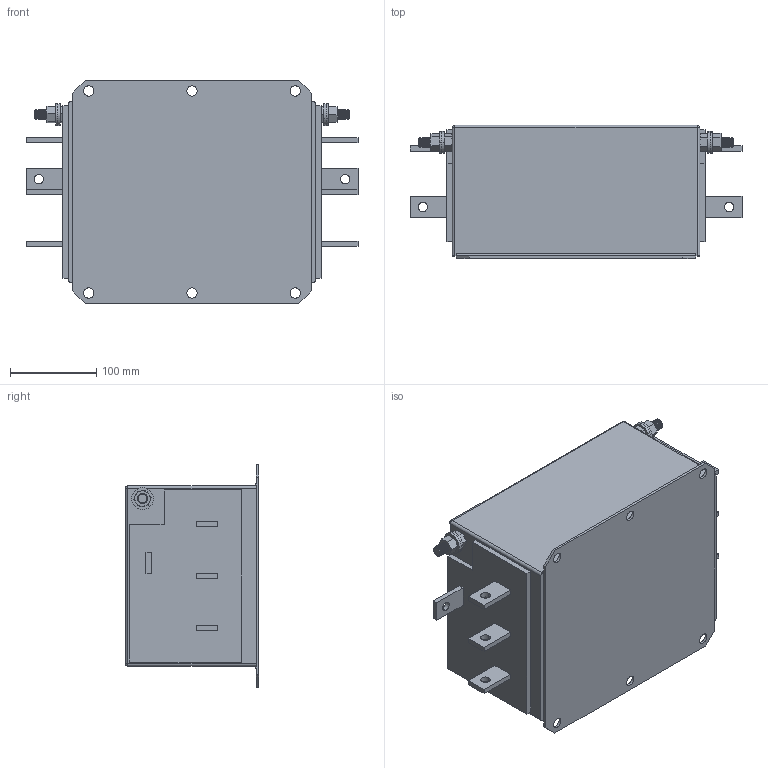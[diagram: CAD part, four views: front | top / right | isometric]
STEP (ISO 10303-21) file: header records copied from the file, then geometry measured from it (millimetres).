
FILE_DESCRIPTION (( 'STEP AP203' ), '1' );
FILE_NAME ('NF-4-400.STEP', '2022-05-17T14:55:03', ( '' ), ( '' ), 'SwSTEP 2.0', 'SolidWorks 2017', '' );
FILE_SCHEMA (( 'CONFIG_CONTROL_DESIGN' ));
Length unit declared in the file: millimetre
Products named in the file (6): flat washer narrow_am_B18.22M - Plain washer, 12 mm, narrow; NF-4-400; hex nut style 1_am_B18.2.4.1M - Hex nut, Style 1,  M12 x 1.75 --D-N; hex screw_am_B18.6.7M - M12 x 1.75 x 30 Indented HHMS --30S; M12x30 Earth post
Assembly tree (7 placements, depth 3):
  NF-4-400
    NF-4-400
    M12x30 Earth post  x2
      flat washer narrow_am_B18.22M - Plain washer, 12 mm, narrow
      hex nut style 1_am_B18.2.4.1M - Hex nut, Style 1,  M12 x 1.75 --D-N
      hex screw_am_B18.6.7M - M12 x 1.75 x 30 Indented HHMS --30S
Bounding box: 386 x 155 x 260 mm (x, y, z)
Volume: 9730533.1 mm3; surface area: 351523.7 mm2
Topology: 9 solids, 9 shells, 444 faces, 1112 edges, 696 vertices
Faces by surface type: cone 184, cylinder 140, plane 116, sphere 4
Entity records: 9154 total; most frequent: CARTESIAN_POINT 1619, DIRECTION 1524, ORIENTED_EDGE 1384, EDGE_CURVE 692, AXIS2_PLACEMENT_3D 583, VERTEX_POINT 438, LINE 358, VECTOR 358
